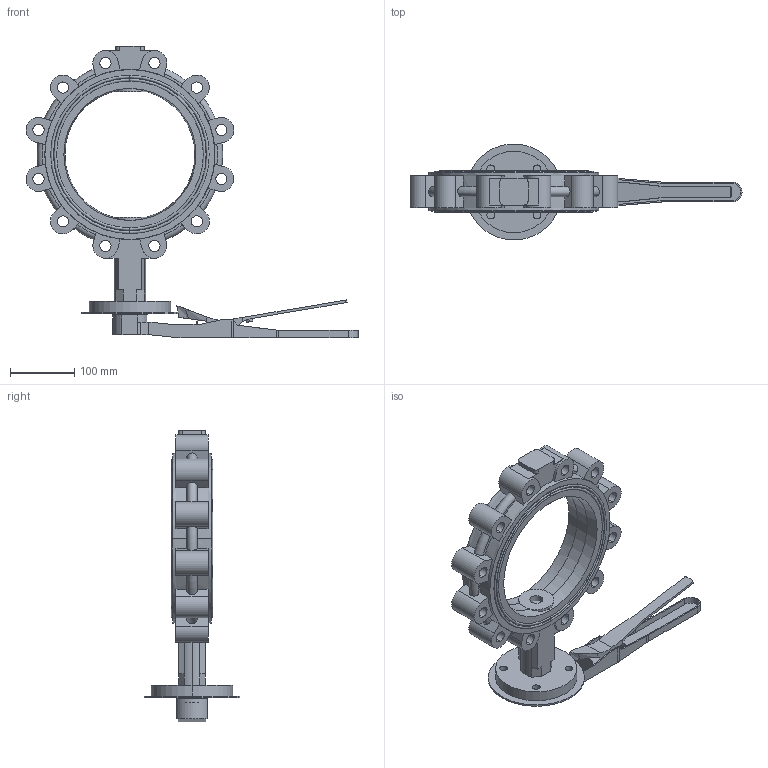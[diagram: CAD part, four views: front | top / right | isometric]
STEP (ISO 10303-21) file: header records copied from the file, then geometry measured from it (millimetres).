
FILE_DESCRIPTION (( 'STEP AP203' ), '1' );
FILE_NAME ('DN200凸耳手柄.STEP', '2026-06-16T07:56:49', ( '微软用户' ), ( '微软中国' ), 'SwSTEP 2.0', 'SolidWorks 2024', '' );
FILE_SCHEMA (( 'CONFIG_CONTROL_DESIGN' ));
Length unit declared in the file: millimetre
Products named in the file (7): DN200凸耳手柄; 衬胶8寸; 玛钢手柄装配方17带锁; 8寸齿盘; 玛钢手柄本体方17; 玛钢手柄弹簧本体方17; 200凸耳PN16，16.6公斤
Assembly tree (6 placements, depth 3):
  DN200凸耳手柄
    200凸耳PN16，16.6公斤
    衬胶8寸
    玛钢手柄装配方17带锁
      玛钢手柄本体方17
      玛钢手柄弹簧本体方17
    8寸齿盘
Bounding box: 517.45 x 149.53 x 455 mm (x, y, z)
Volume: 2658046.8 mm3; surface area: 596141.3 mm2
Topology: 6 solids, 6 shells, 370 faces, 1025 edges, 680 vertices
Faces by surface type: plane 199, cylinder 145, torus 18, cone 4, bspline 4
Entity records: 14014 total; most frequent: CARTESIAN_POINT 3481, DIRECTION 2091, ORIENTED_EDGE 2050, EDGE_CURVE 1025, AXIS2_PLACEMENT_3D 764, VERTEX_POINT 680, LINE 563, VECTOR 563
